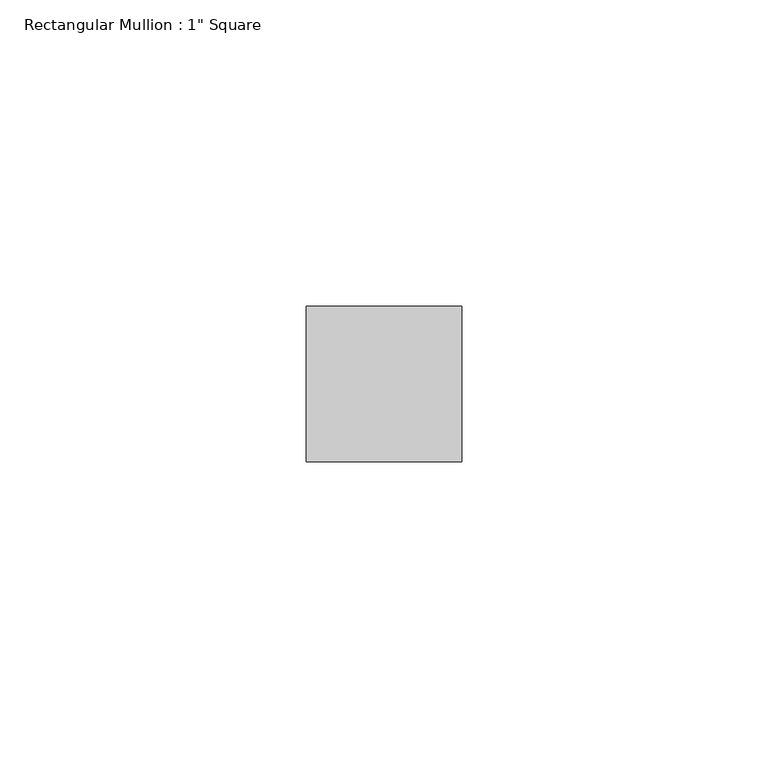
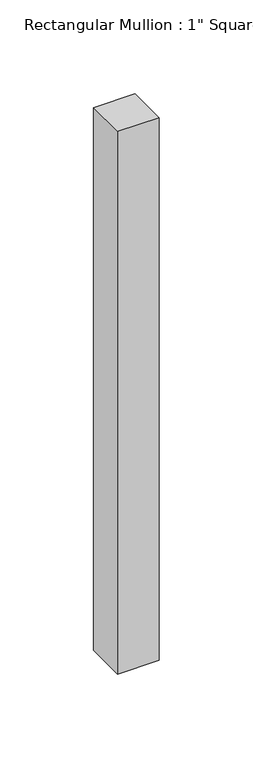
"""IFC4 building model written with IfcOpenShell, lengths in millimetres: member geometry."""

from ifc_helpers import new_model, si_unit, frame, origin, place, context, project, spatial, polyline, outline, extrude, source, transform, mapped, element, save


def member_0c0d0d3f(model_context):
    return source(origin(), model_context, "Body", "SweptSolid", [
        extrude(outline(polyline([(12.7, 12.7), (12.7, -12.7), (-12.7, -12.7), (-12.7, 12.7), (12.7, 12.7)])), frame((0.0, 0.0, -352.6968426), z_axis=(0.0, 0.0, 1.0), x_axis=(1.0, 0.0, 0.0)), (0.0, 0.0, 1.0), 352.6968426),
    ])


if __name__ == "__main__":
    model = new_model("IFC4")
    model_context = context("Model", 3, world=origin())
    ifc_project = project(units=[si_unit("LENGTHUNIT", "METRE", prefix="MILLI")], contexts=[model_context])
    site = spatial("IfcSite", under=ifc_project)
    building = spatial("IfcBuilding", under=site)
    placement = place(None, origin())
    member_shape = member_0c0d0d3f(model_context)
    element("IfcMember", 1, ObjectType="Rectangular Mullion : 1\" Square", at=placement, inside=building, context=model_context, shape_type="MappedRepresentation", body=[
        mapped(member_shape, transform((0.0, 0.0, 0.0), x_axis=(1.0, 0.0, 0.0), y_axis=(0.0, 1.0, 0.0), z_axis=(0.0, 0.0, 1.0))),
    ])
    save(model, "model.ifc")
